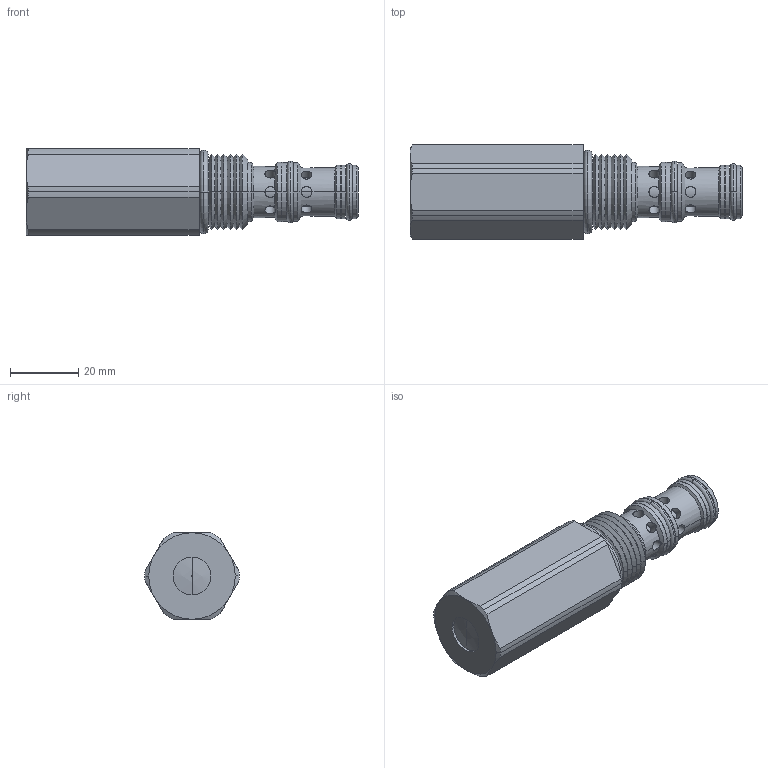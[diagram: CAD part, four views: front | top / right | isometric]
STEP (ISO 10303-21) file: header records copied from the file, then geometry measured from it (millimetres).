
FILE_DESCRIPTION((''),'2;1');
FILE_NAME('U:\Solid model CD\Solid model full\Mechanical\STEP\DFPWI0T-3D Full.stp','2008-07-29T09:22:57',('Dan'),(''),'Autodesk Inventor 9','Autodesk Inventor 9','');
FILE_SCHEMA(('AUTOMOTIVE_DESIGN { 1 0 10303 214 1 1 1 1 }'));
Length unit declared in the file: inch
Products named in the file (7): DFPWI0T-3D Full; DFPWI0T-3D Full1; DFPWI0T-3D Full2; DFPWI0T-3D Full3; DFPWI0T-3D Full4; DFPWI0T-3D Full5; DFPWI0T-3D Full6
Assembly tree (6 placements, depth 2):
  DFPWI0T-3D Full
    DFPWI0T-3D Full1
    DFPWI0T-3D Full2
    DFPWI0T-3D Full3
    DFPWI0T-3D Full4
    DFPWI0T-3D Full5
    DFPWI0T-3D Full6
Bounding box: 97.46 x 27.69 x 25.4 mm (x, y, z)
Volume: 38160.5 mm3; surface area: 10970 mm2
Topology: 6 solids, 7 shells, 182 faces, 420 edges, 262 vertices
Faces by surface type: cylinder 96, cone 44, plane 20, bspline 12, torus 8, sphere 2
Entity records: 6580 total; most frequent: CARTESIAN_POINT 2391, ORIENTED_EDGE 840, DIRECTION 838, EDGE_CURVE 420, AXIS2_PLACEMENT_3D 351, VERTEX_POINT 262, EDGE_LOOP 202, FACE_OUTER_BOUND 182
